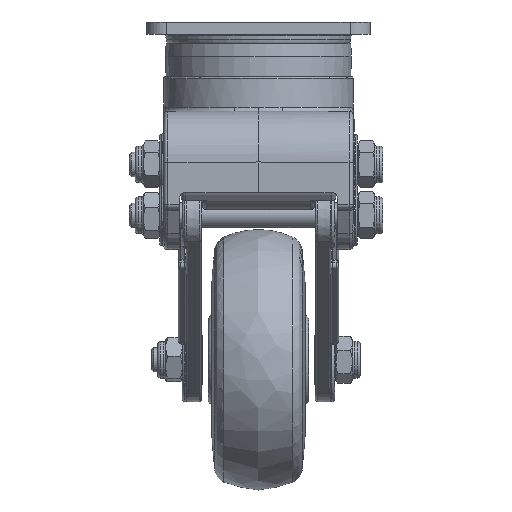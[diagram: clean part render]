
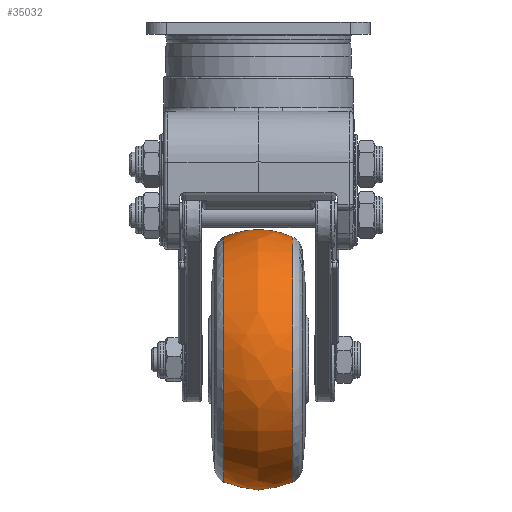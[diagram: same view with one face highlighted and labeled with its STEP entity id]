
A CAD part, left-side view. The second image highlights one B-rep face of the part: STEP entity #35032.
In plain terms, the highlighted free-form (B-spline) face has degree [2, 2] with [3, 9] control points.
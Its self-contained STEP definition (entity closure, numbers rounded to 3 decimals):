
#14=(
BOUNDED_SURFACE()
B_SPLINE_SURFACE(2,2,((#49427,#49428,#49429,#49430,#49431,#49432,#49433,
#49434,#49435),(#49436,#49437,#49438,#49439,#49440,#49441,#49442,#49443,
#49444),(#49445,#49446,#49447,#49448,#49449,#49450,#49451,#49452,#49453)),
 .UNSPECIFIED.,.F.,.T.,.F.)
B_SPLINE_SURFACE_WITH_KNOTS((3,3),(3,2,2,2,3),(-0.438,0.438),
(-3.142,-1.571,0.,1.571,3.142),
 .UNSPECIFIED.)
GEOMETRIC_REPRESENTATION_ITEM()
RATIONAL_B_SPLINE_SURFACE(((1.,0.707,1.,0.707,1.,
0.707,1.,0.707,1.),(0.906,0.64,
0.906,0.64,0.906,0.64,
0.906,0.64,0.906),(1.,0.707,
1.,0.707,1.,0.707,1.,0.707,1.)))
REPRESENTATION_ITEM('')
SURFACE()
);
#5680=FACE_OUTER_BOUND('',#7680,.T.);
#7680=EDGE_LOOP('',(#25140,#25141,#25142,#25143,#25144,#25145,#25146,#25147));
#14872=CIRCLE('',#37250,30.112);
#14873=CIRCLE('',#37251,30.112);
#14874=CIRCLE('',#37252,20.);
#14875=CIRCLE('',#37253,30.112);
#14876=CIRCLE('',#37254,30.112);
#14877=CIRCLE('',#37255,30.112);
#14878=CIRCLE('',#37256,30.112);
#16148=VERTEX_POINT('',#49454);
#16149=VERTEX_POINT('',#49455);
#16150=VERTEX_POINT('',#49457);
#16151=VERTEX_POINT('',#49459);
#16152=VERTEX_POINT('',#49461);
#16153=VERTEX_POINT('',#49463);
#19639=EDGE_CURVE('',#16148,#16149,#14872,.T.);
#19640=EDGE_CURVE('',#16149,#16150,#14873,.T.);
#19641=EDGE_CURVE('',#16150,#16151,#14874,.T.);
#19642=EDGE_CURVE('',#16152,#16151,#14875,.T.);
#19643=EDGE_CURVE('',#16153,#16152,#14876,.T.);
#19644=EDGE_CURVE('',#16151,#16153,#14877,.T.);
#19645=EDGE_CURVE('',#16150,#16148,#14878,.T.);
#25140=ORIENTED_EDGE('',*,*,#19639,.T.);
#25141=ORIENTED_EDGE('',*,*,#19640,.T.);
#25142=ORIENTED_EDGE('',*,*,#19641,.T.);
#25143=ORIENTED_EDGE('',*,*,#19642,.F.);
#25144=ORIENTED_EDGE('',*,*,#19643,.F.);
#25145=ORIENTED_EDGE('',*,*,#19644,.F.);
#25146=ORIENTED_EDGE('',*,*,#19641,.F.);
#25147=ORIENTED_EDGE('',*,*,#19645,.T.);
#35032=ADVANCED_FACE('',(#5680),#14,.F.);
#37250=AXIS2_PLACEMENT_3D('',#49456,#40368,#40369);
#37251=AXIS2_PLACEMENT_3D('',#49458,#40370,#40371);
#37252=AXIS2_PLACEMENT_3D('',#49460,#40372,#40373);
#37253=AXIS2_PLACEMENT_3D('',#49462,#40374,#40375);
#37254=AXIS2_PLACEMENT_3D('',#49464,#40376,#40377);
#37255=AXIS2_PLACEMENT_3D('',#49465,#40378,#40379);
#37256=AXIS2_PLACEMENT_3D('',#49466,#40380,#40381);
#40368=DIRECTION('center_axis',(0.,-1.,0.));
#40369=DIRECTION('ref_axis',(-0.282,0.,-0.959));
#40370=DIRECTION('center_axis',(0.,-1.,0.));
#40371=DIRECTION('ref_axis',(-0.282,0.,-0.959));
#40372=DIRECTION('center_axis',(1.,0.,0.));
#40373=DIRECTION('ref_axis',(0.,0.,
1.));
#40374=DIRECTION('center_axis',(0.,-1.,0.));
#40375=DIRECTION('ref_axis',(-0.282,0.,-0.959));
#40376=DIRECTION('center_axis',(0.,-1.,0.));
#40377=DIRECTION('ref_axis',(-0.282,0.,-0.959));
#40378=DIRECTION('center_axis',(0.,-1.,0.));
#40379=DIRECTION('ref_axis',(-0.282,0.,-0.959));
#40380=DIRECTION('center_axis',(0.,-1.,0.));
#40381=DIRECTION('ref_axis',(-0.282,0.,-0.959));
#49427=CARTESIAN_POINT('Ctrl Pts',(-2.545,-5.44,
-48.463));
#49428=CARTESIAN_POINT('Ctrl Pts',(-32.657,-5.44,
-48.463));
#49429=CARTESIAN_POINT('Ctrl Pts',(-32.657,-5.44,
-78.575));
#49430=CARTESIAN_POINT('Ctrl Pts',(-32.657,-5.44,
-108.687));
#49431=CARTESIAN_POINT('Ctrl Pts',(-2.545,-5.44,
-108.687));
#49432=CARTESIAN_POINT('Ctrl Pts',(27.567,-5.44,-108.687));
#49433=CARTESIAN_POINT('Ctrl Pts',(27.567,-5.44,-78.575));
#49434=CARTESIAN_POINT('Ctrl Pts',(27.567,-5.44,-48.463));
#49435=CARTESIAN_POINT('Ctrl Pts',(-2.545,-5.44,
-48.463));
#49436=CARTESIAN_POINT('Ctrl Pts',(-2.545,-13.922,
-44.49));
#49437=CARTESIAN_POINT('Ctrl Pts',(-36.629,-13.922,
-44.49));
#49438=CARTESIAN_POINT('Ctrl Pts',(-36.629,-13.922,
-78.575));
#49439=CARTESIAN_POINT('Ctrl Pts',(-36.629,-13.922,
-112.659));
#49440=CARTESIAN_POINT('Ctrl Pts',(-2.545,-13.922,
-112.659));
#49441=CARTESIAN_POINT('Ctrl Pts',(31.54,-13.922,-112.659));
#49442=CARTESIAN_POINT('Ctrl Pts',(31.54,-13.922,-78.575));
#49443=CARTESIAN_POINT('Ctrl Pts',(31.54,-13.922,-44.49));
#49444=CARTESIAN_POINT('Ctrl Pts',(-2.545,-13.922,
-44.49));
#49445=CARTESIAN_POINT('Ctrl Pts',(-2.545,-22.405,
-48.463));
#49446=CARTESIAN_POINT('Ctrl Pts',(-32.657,-22.405,
-48.463));
#49447=CARTESIAN_POINT('Ctrl Pts',(-32.657,-22.405,
-78.575));
#49448=CARTESIAN_POINT('Ctrl Pts',(-32.657,-22.405,
-108.687));
#49449=CARTESIAN_POINT('Ctrl Pts',(-2.545,-22.405,
-108.687));
#49450=CARTESIAN_POINT('Ctrl Pts',(27.567,-22.405,-108.687));
#49451=CARTESIAN_POINT('Ctrl Pts',(27.567,-22.405,-78.575));
#49452=CARTESIAN_POINT('Ctrl Pts',(27.567,-22.405,-48.463));
#49453=CARTESIAN_POINT('Ctrl Pts',(-2.545,-22.405,
-48.463));
#49454=CARTESIAN_POINT('',(-11.033,-5.44,-107.466));
#49455=CARTESIAN_POINT('',(5.943,-5.44,-49.684));
#49456=CARTESIAN_POINT('Origin',(-2.545,-5.44,-78.575));
#49457=CARTESIAN_POINT('',(-2.545,-5.44,-48.463));
#49458=CARTESIAN_POINT('Origin',(-2.545,-5.44,-78.575));
#49459=CARTESIAN_POINT('',(-2.545,-22.405,-48.463));
#49460=CARTESIAN_POINT('Origin',(-2.545,-13.922,-66.575));
#49461=CARTESIAN_POINT('',(5.943,-22.405,-49.684));
#49462=CARTESIAN_POINT('Origin',(-2.545,-22.405,-78.575));
#49463=CARTESIAN_POINT('',(-11.033,-22.405,-107.466));
#49464=CARTESIAN_POINT('Origin',(-2.545,-22.405,-78.575));
#49465=CARTESIAN_POINT('Origin',(-2.545,-22.405,-78.575));
#49466=CARTESIAN_POINT('Origin',(-2.545,-5.44,-78.575));
